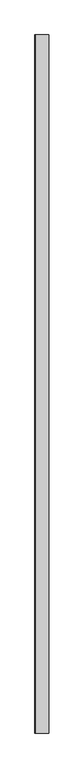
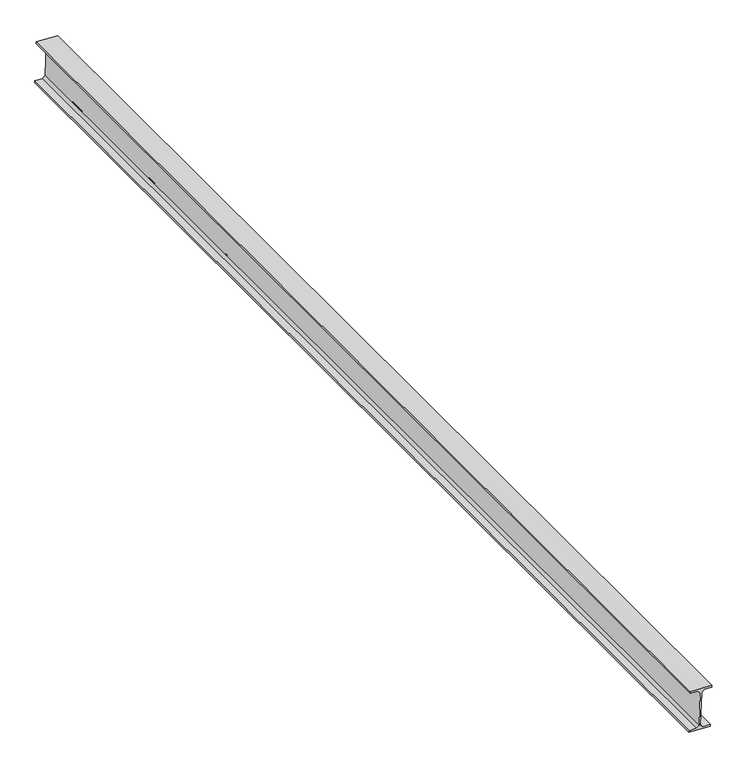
"""IFC4 building model written with IfcOpenShell, lengths in millimetres: beam geometry, Panne 210156 : Panne 210156."""

from ifc_helpers import new_model, si_unit, frame, origin, place, context, project, spatial, polyline, outline, extrude, source, transform, mapped, element, save


def beam_9294c62f(model_context):
    return source(origin(), model_context, "Body", "SweptSolid", [
        extrude(outline(polyline([(7833.8983668, 5708.6180908), (7837.396225, 5608.6792846), (7828.9014265, 5608.3819667), (7827.6701804, 5643.5604265), (7815.2577807, 5655.1333402), (7656.3550788, 5649.5717456), (7644.782165, 5637.1593459), (7646.0134111, 5601.9808861), (7637.5186126, 5601.6835682), (7634.0207544, 5701.6223744), (7642.5155529, 5701.9196923), (7643.746799, 5666.7412326), (7656.1591987, 5655.1683188), (7815.0619006, 5660.7299134), (7826.6348144, 5673.1423131), (7825.4035683, 5708.3207729), (7833.8983668, 5708.6180908)])), frame((0.0, -34330.0, 0.0), z_axis=(0.0, 1.0, 0.0), x_axis=(0.0, 0.0, 1.0)), (0.0, 0.0, 1.0), 5330.0),
    ])


if __name__ == "__main__":
    model = new_model("IFC4")
    model_context = context("Model", 3, world=origin())
    ifc_project = project(units=[si_unit("LENGTHUNIT", "METRE", prefix="MILLI")], contexts=[model_context])
    site = spatial("IfcSite", under=ifc_project)
    building = spatial("IfcBuilding", under=site)
    placement = place(None, origin())
    beam_shape = beam_9294c62f(model_context)
    element("IfcBeam", 1, ObjectType="Panne 210156 : Panne 210156", at=placement, inside=building, context=model_context, shape_type="MappedRepresentation", body=[
        mapped(beam_shape, transform((0.0, 0.0, 0.0), x_axis=(1.0, 0.0, 0.0), y_axis=(0.0, 1.0, 0.0), z_axis=(0.0, 0.0, 1.0))),
    ])
    save(model, "model.ifc")
